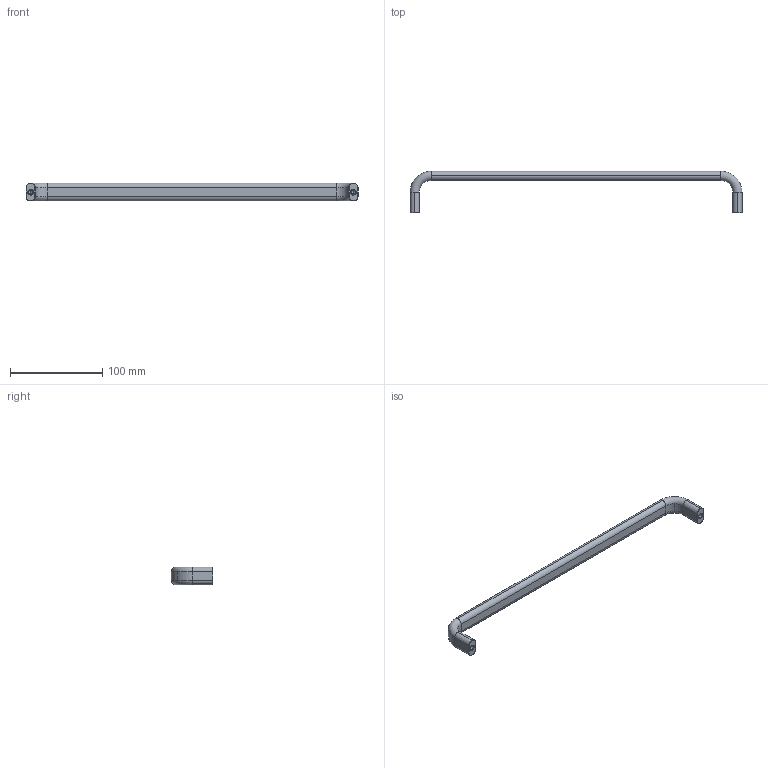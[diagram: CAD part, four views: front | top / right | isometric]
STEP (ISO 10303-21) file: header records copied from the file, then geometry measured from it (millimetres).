
FILE_DESCRIPTION((''),'2;1');
FILE_NAME('c:\wix\Knobs\7892\7892.W135.stp','2003-04-04T16:42:17',('joanc'),(''),'Autodesk Inventor (tm) 5.3','Autodesk Inventor (tm) 5.3','');
FILE_SCHEMA(('CONFIG_CONTROL_DESIGN'));
Length unit declared in the file: millimetre
Products named in the file (1): 7892.W135
Bounding box: 360 x 45 x 19.5 mm (x, y, z)
Volume: 71247.3 mm3; surface area: 21765.5 mm2
Topology: 1 solids, 1 shells, 72 faces, 166 edges, 94 vertices
Faces by surface type: cylinder 36, torus 16, cone 12, plane 8
Entity records: 2105 total; most frequent: DIRECTION 408, CARTESIAN_POINT 329, ORIENTED_EDGE 324, AXIS2_PLACEMENT_3D 173, EDGE_CURVE 162, CIRCLE 100, VERTEX_POINT 94, EDGE_LOOP 74
